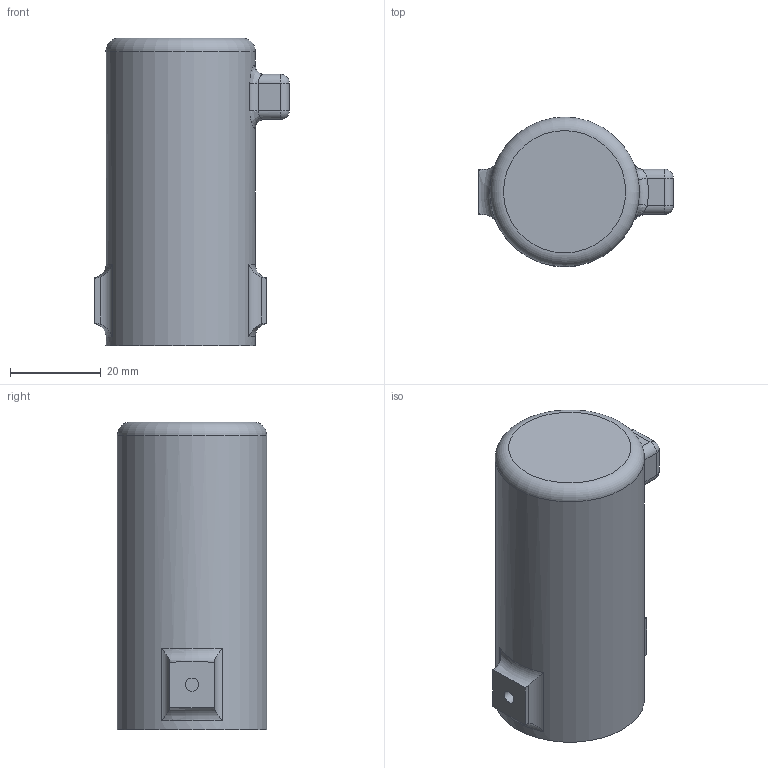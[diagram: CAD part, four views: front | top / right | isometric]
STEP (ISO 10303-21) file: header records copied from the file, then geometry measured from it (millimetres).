
FILE_DESCRIPTION(/* description */ ('STEP AP242 Edition 2','CAx-IF Rec.Pracs.---Representation and Presentation of Product Manufacturing Information (PMI)---4.0---2014-10-13','CAx-IF Rec.Pracs.---3D Tessellated Geometry---0.4---2014-09-14','2;1','CAx-IF Rec.Pracs.---User Defined Attributes---1.5---2016-08-15'),/* implementation_level */ '2;1');
FILE_NAME(/* name */ '695aff0fd13f1a02338894eb',/* time_stamp */ '2026-01-05T00:00:15Z',/* author */ (''),/* organization */ (''),/* preprocessor_version */ 'ST-DEVELOPER v20',/* originating_system */ 'ONSHAPE BY PTC INC, 1.208',/* authorisation */ ' ');
FILE_SCHEMA (('AP242_MANAGED_MODEL_BASED_3D_ENGINEERING_MIM_LF { 1 0 10303 442 3 1 4 }'));
Length unit declared in the file: metre
Products named in the file (1): Part 1
Bounding box: 43.04 x 33 x 68 mm (x, y, z)
Volume: 14860.5 mm3; surface area: 15189.6 mm2
Topology: 1 solids, 1 shells, 59 faces, 139 edges, 83 vertices
Faces by surface type: plane 25, cylinder 19, torus 7, bspline 4, sphere 4
Full cylindrical faces by diameter (mm): 2.9 x2, 3 x1, 29.5 x1, 33 x1
Entity records: 1706 total; most frequent: CARTESIAN_POINT 446, DIRECTION 254, ORIENTED_EDGE 246, EDGE_CURVE 123, AXIS2_PLACEMENT_3D 103, VERTEX_POINT 79, EDGE_LOOP 72, FACE_BOUND 72
